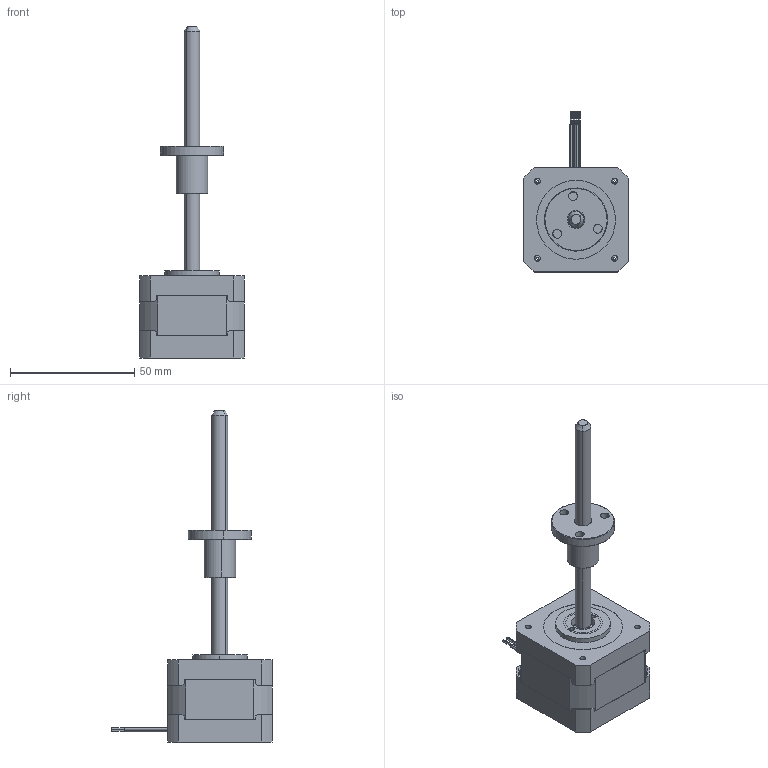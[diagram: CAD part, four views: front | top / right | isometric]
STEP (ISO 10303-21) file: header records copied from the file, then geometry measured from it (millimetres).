
FILE_DESCRIPTION (( 'STEP AP203' ), '1' );
FILE_NAME ('42外驱.STEP', '2014-09-12T05:18:21', ( 'user' ), ( 'pxctfys' ), 'SwSTEP 2.0', 'SolidWorks 2012', '' );
FILE_SCHEMA (( 'CONFIG_CONTROL_DESIGN' ));
Length unit declared in the file: millimetre
Products named in the file (1): 42外驱
Bounding box: 42.16 x 64.57 x 133.5 mm (x, y, z)
Surface area: 18146.2 mm2 (no closed solid volume)
Topology: 0 solids, 28 shells, 245 faces, 1715 edges, 1503 vertices
Faces by surface type: plane 113, cylinder 90, cone 22, torus 14, bspline 6
Entity records: 18983 total; most frequent: CARTESIAN_POINT 5434, DIRECTION 3103, ORIENTED_EDGE 2210, EDGE_CURVE 1715, VERTEX_POINT 1503, AXIS2_PLACEMENT_3D 1180, CIRCLE 940, LINE 743
